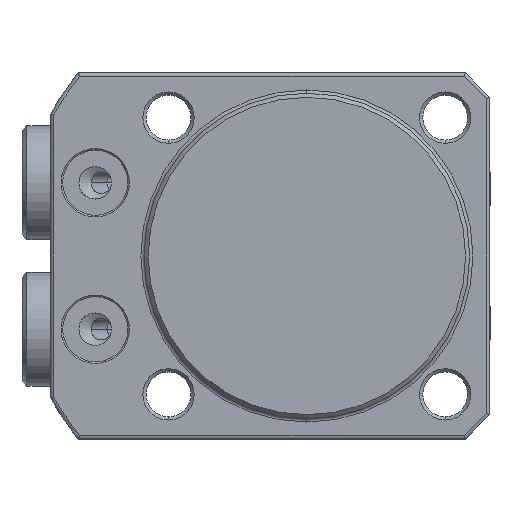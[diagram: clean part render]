
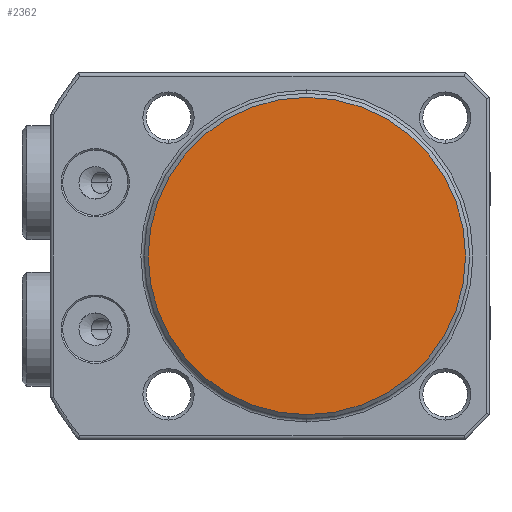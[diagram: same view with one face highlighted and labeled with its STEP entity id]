
A CAD part, front view. The second image highlights one B-rep face of the part: STEP entity #2362.
In plain terms, the highlighted planar face has unit normal (0, -1, 0) as drawn and (-1, 0, 0) by its records, which use the part's own axes.
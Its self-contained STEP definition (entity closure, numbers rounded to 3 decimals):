
#1483=PLANE('',#6461);
#2362=ADVANCED_FACE('',(#2724),#1483,.F.);
#2724=FACE_OUTER_BOUND('',#3028,.T.);
#3028=EDGE_LOOP('',(#3490));
#3490=ORIENTED_EDGE('',*,*,#5357,.T.);
#4873=VERTEX_POINT('',#8788);
#5357=EDGE_CURVE('',#4873,#4873,#6085,.T.);
#6085=CIRCLE('',#6460,19.5);
#6460=AXIS2_PLACEMENT_3D('',#8787,#7230,#7231);
#6461=AXIS2_PLACEMENT_3D('',#8789,#7232,#7233);
#7230=DIRECTION('',(-1.,0.,0.));
#7231=DIRECTION('',(0.,0.,-1.));
#7232=DIRECTION('',(1.,0.,0.));
#7233=DIRECTION('',(0.,0.,1.));
#8787=CARTESIAN_POINT('',(0.,0.,0.));
#8788=CARTESIAN_POINT('',(0.,0.,-19.5));
#8789=CARTESIAN_POINT('',(0.,0.,0.));
